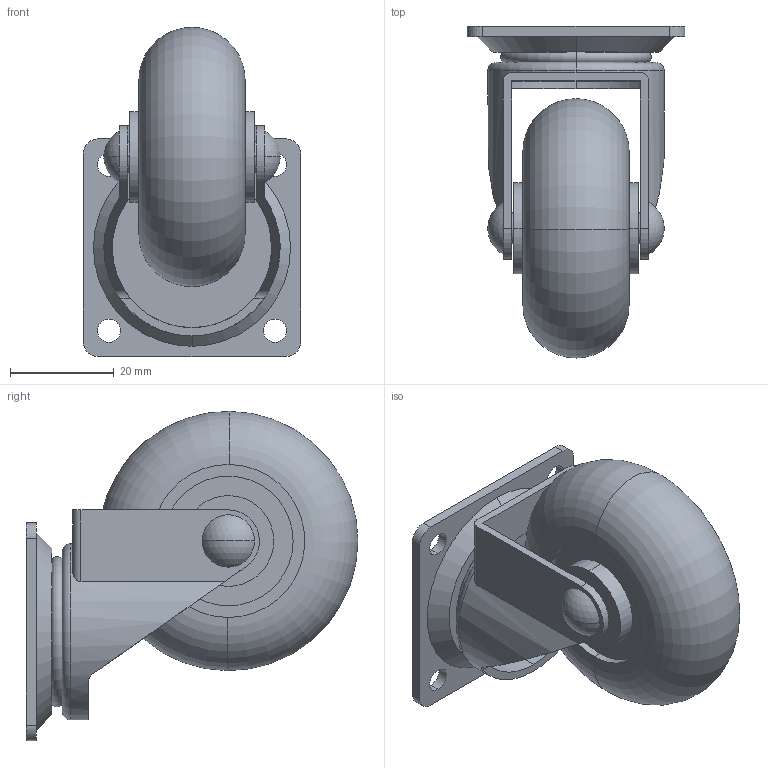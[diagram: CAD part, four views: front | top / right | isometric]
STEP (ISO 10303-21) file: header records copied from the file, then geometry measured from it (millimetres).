
FILE_DESCRIPTION (( 'STEP AP214' ), '1' );
FILE_NAME ('EMMA-50-P.STEP', '2020-04-07T05:58:51', ( '' ), ( '' ), 'SwSTEP 2.0', 'SolidWorks 2019', '' );
FILE_SCHEMA (( 'AUTOMOTIVE_DESIGN' ));
Length unit declared in the file: millimetre
Products named in the file (5): EMMA-50-P_partsB; EMMA-50_wheel; EMMA-50-P; EMMA-50-P_partsA; EMMA-50_jiku
Assembly tree (4 placements, depth 2):
  EMMA-50-P
    EMMA-50-P_partsB
    EMMA-50_wheel
    EMMA-50_jiku
    EMMA-50-P_partsA
Bounding box: 42 x 64 x 63.5 mm (x, y, z)
Volume: 46242.2 mm3; surface area: 17645.8 mm2
Topology: 4 solids, 4 shells, 78 faces, 186 edges, 124 vertices
Faces by surface type: cylinder 38, plane 28, torus 6, sphere 4, cone 2
Entity records: 2584 total; most frequent: CARTESIAN_POINT 465, DIRECTION 448, ORIENTED_EDGE 372, AXIS2_PLACEMENT_3D 187, EDGE_CURVE 186, VERTEX_POINT 124, CIRCLE 102, EDGE_LOOP 100
